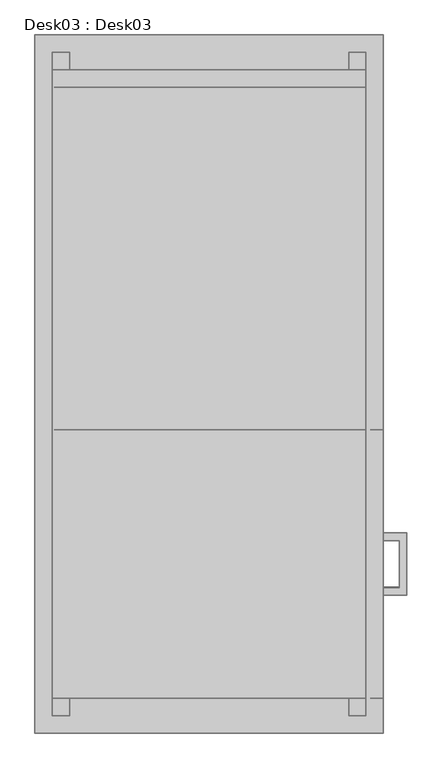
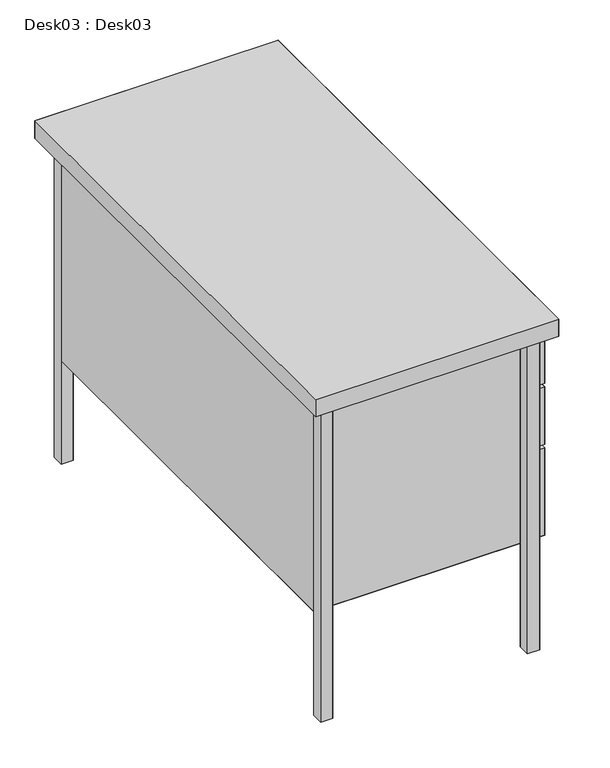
"""IFC4 building model written with IfcOpenShell, lengths in millimetres: furniture geometry, Desk03 : Desk03."""

from ifc_helpers import new_model, si_unit, origin, place, context, project, spatial, triangles, source, transform, mapped, element, save


def desk03_desk03_8cab2bc7(model_context):
    return source(origin(), model_context, "Body", "Tessellation", [
        triangles([(508.0101617, -735.8786293, 621.2738514), (508.0101617, -724.5096285, 632.6733736), (508.0101617, -724.5096285, 621.2738514), (508.0101617, -735.8786293, 632.6733736), (542.1477582, -724.5096285, 632.6733736), (530.7786847, -804.1843437, 621.2738514), (530.7786847, -735.8786293, 632.6733736), (530.7786847, -735.8786293, 621.2738514), (542.1477582, -815.5838659, 621.2738514), (542.1477582, -724.5096285, 621.2738514), (530.7786847, -804.1843437, 632.6733736), (508.0101617, -804.1843437, 621.2738514), (508.0101617, -815.5838659, 621.2738514), (508.0101617, -815.5838659, 632.6733736), (542.1477582, -815.5838659, 632.6733736), (508.0101617, -804.1843437, 632.6733736), (530.7786847, -735.8786293, 486.674182), (508.0101617, -735.8786293, 486.674182), (542.1477582, -724.5096285, 486.674182), (508.0101617, -724.5096285, 486.674182), (542.1477582, -724.5096285, 498.0431828), (508.0101617, -735.8786293, 498.0431828), (508.0101617, -724.5096285, 498.0431828), (530.7786847, -735.8786293, 498.0431828), (508.0101617, -804.1843437, 486.674182), (530.7786847, -804.1843437, 486.674182), (508.0101617, -815.5838659, 498.0431828), (542.1477582, -815.5838659, 486.674182), (508.0101617, -815.5838659, 486.674182), (530.7786847, -804.1843437, 498.0431828), (542.1477582, -815.5838659, 498.0431828), (508.0101617, -804.1843437, 498.0431828), (508.0101617, -724.5096285, 352.0439913), (508.0101617, -735.8786293, 352.0439913), (542.1477582, -724.5096285, 352.0439913), (508.0101617, -724.5096285, 363.4130284), (542.1477582, -724.5096285, 363.4130284), (508.0101617, -735.8786293, 363.4130284), (530.7786847, -735.8786293, 363.4130284), (530.7786847, -804.1843437, 352.0439913), (530.7786847, -735.8786293, 352.0439913), (542.1477582, -815.5838659, 352.0439913), (508.0101617, -804.1843437, 352.0439913), (508.0101617, -815.5838659, 352.0439913), (542.1477582, -815.5838659, 363.4130284), (508.0101617, -815.5838659, 363.4130284), (530.7786847, -804.1843437, 363.4130284), (508.0101617, -804.1843437, 363.4130284)], [[1, 8, 4], [7, 4, 8], [3, 10, 1], [8, 1, 10], [2, 5, 3], [10, 3, 5], [4, 7, 2], [5, 2, 7], [8, 6, 7], [11, 7, 6], [10, 9, 8], [6, 8, 9], [5, 15, 10], [9, 10, 15], [7, 11, 5], [15, 5, 11], [6, 12, 11], [16, 11, 12], [9, 13, 6], [12, 6, 13], [15, 14, 9], [13, 9, 14], [11, 16, 15], [14, 15, 16], [18, 17, 22], [24, 22, 17], [20, 19, 18], [17, 18, 19], [23, 21, 20], [19, 20, 21], [22, 24, 23], [21, 23, 24], [17, 26, 24], [30, 24, 26], [19, 28, 17], [26, 17, 28], [21, 31, 19], [28, 19, 31], [24, 30, 21], [31, 21, 30], [26, 25, 30], [32, 30, 25], [28, 29, 26], [25, 26, 29], [31, 27, 28], [29, 28, 27], [30, 32, 31], [27, 31, 32], [34, 41, 38], [39, 38, 41], [33, 35, 34], [41, 34, 35], [36, 37, 33], [35, 33, 37], [38, 39, 36], [37, 36, 39], [41, 40, 39], [47, 39, 40], [35, 42, 41], [40, 41, 42], [37, 45, 35], [42, 35, 45], [39, 47, 37], [45, 37, 47], [40, 43, 47], [48, 47, 43], [42, 44, 40], [43, 40, 44], [45, 46, 42], [44, 42, 46], [47, 48, 45], [46, 45, 48]], closed=False),
        triangles([(482.5898383, -574.7918412, 660.5016169), (482.5898383, -50.6882396, 660.5016169), (482.5898383, -50.6882396, 698.6016169), (482.5898383, -574.7613925, 698.6016169)], [[3, 1, 2], [1, 3, 4]], closed=False),
        triangles([(457.2914188, -50.6882396, 0.0), (457.2914188, -50.6882396, 698.6016169), (457.2914188, -25.3898406, 698.6016169), (457.2914188, -25.3898406, 0.0), (482.5898383, -25.3898406, 698.6016169), (482.5898383, -50.6882396, 698.6016169), (482.5898383, -50.6882396, 0.0), (482.5898383, -25.3898406, 0.0), (25.3898406, -50.6882396, 0.0), (25.3898406, -50.6882396, 698.6016169), (25.3898406, -25.3898406, 698.6016169), (25.3898406, -25.3898406, 0.0), (50.6882396, -25.3898406, 0.0), (50.6882396, -25.3898406, 698.6016169), (50.6882396, -50.6882396, 698.6016169), (50.6882396, -50.6882396, 0.0), (25.3898406, -990.6, 698.6016169), (25.3898406, -965.3016169, 698.6016169), (25.3898406, -965.3016169, 0.0), (25.3898406, -990.6, 0.0), (50.6882396, -965.3016169, 698.6016169), (50.6882396, -990.6, 698.6016169), (50.6882396, -990.6, 0.0), (50.6882396, -965.3016169, 0.0), (482.5898383, -965.3016169, 0.0), (482.5898383, -965.3016169, 698.6016169), (482.5898383, -990.6, 698.6016169), (482.5898383, -990.6, 0.0), (457.2914188, -990.6, 0.0), (457.2914188, -990.6, 698.6016169), (457.2914188, -965.3016169, 698.6016169), (457.2914188, -965.3016169, 0.0)], [[2, 1, 3], [4, 3, 1], [6, 8, 5], [8, 6, 7], [10, 9, 11], [12, 11, 9], [15, 13, 14], [13, 15, 16], [17, 20, 18], [19, 18, 20], [22, 24, 21], [24, 22, 23], [27, 25, 26], [25, 27, 28], [30, 29, 31], [32, 31, 29]], closed=False),
        triangles([(482.5898383, -50.6882396, 698.6016169), (457.2914188, -50.6882396, 698.6016169), (457.2914188, -50.6882396, 0.0), (482.5898383, -50.6882396, 0.0), (457.2914188, -25.3898406, 698.6016169), (482.5898383, -25.3898406, 698.6016169), (482.5898383, -25.3898406, 0.0), (457.2914188, -25.3898406, 0.0), (50.6882396, -50.6882396, 698.6016169), (25.3898406, -50.6882396, 698.6016169), (25.3898406, -50.6882396, 0.0), (50.6882396, -50.6882396, 0.0), (25.3898406, -25.3898406, 698.6016169), (50.6882396, -25.3898406, 698.6016169), (50.6882396, -25.3898406, 0.0), (25.3898406, -25.3898406, 0.0), (50.6882396, -990.6, 0.0), (50.6882396, -990.6, 698.6016169), (25.3898406, -990.6, 698.6016169), (25.3898406, -990.6, 0.0), (25.3898406, -965.3016169, 698.6016169), (50.6882396, -965.3016169, 698.6016169), (50.6882396, -965.3016169, 0.0), (25.3898406, -965.3016169, 0.0), (457.2914188, -965.3016169, 0.0), (457.2914188, -965.3016169, 698.6016169), (482.5898383, -965.3016169, 698.6016169), (482.5898383, -965.3016169, 0.0), (482.5898383, -990.6, 698.6016169), (457.2914188, -990.6, 698.6016169), (457.2914188, -990.6, 0.0), (482.5898383, -990.6, 0.0)], [[2, 4, 1], [4, 2, 3], [5, 8, 6], [7, 6, 8], [10, 12, 9], [12, 10, 11], [13, 16, 14], [15, 14, 16], [19, 17, 18], [17, 19, 20], [21, 24, 22], [23, 22, 24], [26, 25, 27], [28, 27, 25], [30, 32, 29], [32, 30, 31]], closed=False),
        triangles([(508.0101617, -574.7613925, 556.3514697), (488.9601617, -574.7613925, 556.3514697), (488.9601617, -965.3016169, 556.3514697), (508.0101617, -965.3016169, 556.3514697), (488.9601617, -965.3016169, 563.9714261), (488.9601617, -574.7918412, 563.9714261), (508.0101617, -574.7613925, 563.9714261), (508.0101617, -965.3016169, 563.9714261), (508.0101617, -574.7613925, 690.9815878), (488.9601617, -574.7613925, 690.9815878), (488.9601617, -965.3016169, 690.9815878), (508.0101617, -965.3016169, 690.9815878), (488.9601617, -965.3016169, 228.691437), (488.9601617, -574.7613925, 228.691437), (508.0101617, -574.7613925, 228.691437), (508.0101617, -965.3016169, 228.691437), (488.9601617, -574.7613925, 421.751764), (488.9601617, -965.3016169, 421.751764), (508.0101617, -965.3016169, 421.751764), (508.0101617, -574.7613925, 421.751764)], [[3, 1, 2], [1, 3, 4], [5, 8, 6], [7, 6, 8], [11, 9, 10], [9, 11, 12], [13, 16, 14], [15, 14, 16], [18, 20, 17], [20, 18, 19]], closed=False),
        triangles([(508.0101617, -574.7613925, 429.3412717), (508.0101617, -965.3016169, 429.3412717), (508.0101617, -965.3016169, 556.3514697), (508.0101617, -574.7613925, 556.3514697), (508.0101617, -574.7613925, 563.9714261), (508.0101617, -965.3016169, 563.9714261), (508.0101617, -965.3016169, 690.9815878), (508.0101617, -574.7613925, 690.9815878), (508.0101617, -574.7613925, 421.751764), (508.0101617, -574.7613925, 228.691437), (508.0101617, -965.3016169, 228.691437), (508.0101617, -965.3016169, 421.751764)], [[1, 4, 2], [3, 2, 4], [5, 8, 6], [7, 6, 8], [10, 9, 11], [12, 11, 9]], closed=False),
        triangles([(508.0101617, -965.3016169, 556.3514697), (488.9601617, -965.3016169, 556.3514697), (488.9601617, -965.3016169, 429.3412717), (508.0101617, -965.3016169, 429.3412717), (488.9601617, -574.7918412, 429.3412717), (488.9601617, -574.7613925, 556.3514697), (508.0101617, -574.7613925, 556.3514697), (508.0101617, -574.7613925, 429.3412717), (508.0101617, -965.3016169, 690.9815878), (488.9601617, -965.3016169, 690.9815878), (488.9601617, -965.3016169, 563.9714261), (508.0101617, -965.3016169, 563.9714261), (488.9601617, -574.7918412, 563.9714261), (488.9601617, -574.7613925, 690.9815878), (508.0101617, -574.7613925, 563.9714261), (508.0101617, -574.7613925, 690.9815878), (488.9601617, -965.3016169, 421.751764), (488.9601617, -965.3016169, 228.691437), (508.0101617, -965.3016169, 228.691437), (508.0101617, -965.3016169, 421.751764), (488.9601617, -574.7613925, 228.691437), (488.9601617, -574.7613925, 421.751764), (508.0101617, -574.7613925, 421.751764), (508.0101617, -574.7613925, 228.691437)], [[3, 1, 2], [1, 3, 4], [6, 5, 8], [7, 6, 8], [11, 9, 10], [9, 11, 12], [14, 13, 15], [16, 14, 15], [18, 20, 17], [20, 18, 19], [21, 24, 22], [23, 22, 24]], closed=False),
        triangles([(482.5898383, -965.3016169, 228.691437), (482.5898383, -574.7918412, 228.691437), (25.3898406, -574.7918412, 228.691437), (25.3898406, -965.3016169, 228.691437), (482.5898383, -574.7613925, 698.6016169), (482.5898383, -50.6882396, 698.6016169), (25.3898406, -50.6882396, 698.6016169), (25.3898406, -574.7918412, 698.6016169)], [[3, 1, 2], [1, 3, 4], [7, 5, 6], [5, 7, 8]], closed=False),
        triangles([(25.3898406, -965.3016169, 698.6016169), (25.3898406, -965.3016169, 228.691437), (25.3898406, -50.6882396, 228.691437), (25.3898406, -50.6882396, 698.6016169), (482.5898383, -965.3016169, 698.6016169), (482.5898383, -574.7918412, 698.6016169), (482.5898383, -574.7918412, 228.691437), (482.5898383, -965.3016169, 228.691437)], [[3, 1, 2], [1, 3, 4], [6, 5, 7], [8, 7, 5]], closed=False),
        triangles([(27.9298382, -574.7918412, 698.6016169), (27.9298382, -574.7918412, 228.691437), (482.5898383, -574.7613925, 228.691437), (482.5898383, -574.7613925, 698.6016169), (482.5898383, -965.3016169, 228.691437), (25.3898406, -965.3016169, 228.691437), (25.3898406, -965.3016169, 698.6016169), (482.5898383, -965.3016169, 698.6016169), (482.5898383, -50.6882396, 698.6016169), (25.3898406, -50.6882396, 698.6016169), (25.3898406, -50.6882396, 228.691437), (482.5898383, -50.6882396, 228.691437), (27.9298382, -75.9866409, 698.6016169), (482.5898383, -75.9866409, 698.6016169), (482.5898383, -75.9866409, 228.691437), (27.9298382, -75.9866409, 228.691437)], [[3, 1, 2], [1, 3, 4], [5, 8, 6], [7, 6, 8], [10, 12, 9], [12, 10, 11], [13, 16, 14], [15, 14, 16]], closed=False),
        triangles([(0.0, 0.0, 736.610198), (508.0101617, 0.0, 736.610198), (508.0101617, -1015.989802, 736.610198), (0.0, -1015.989802, 736.610198)], [[2, 1, 3], [4, 3, 1]], closed=False),
        triangles([(508.0101617, -1015.989802, 736.610198), (508.0101617, 0.0, 736.610198), (508.0101617, 0.0, 698.510198), (508.0101617, -1015.989802, 698.510198), (0.0, -1015.989802, 736.610198), (0.0, -1015.989802, 698.510198), (0.0, 0.0, 698.510198), (0.0, 0.0, 736.610198)], [[2, 1, 3], [4, 3, 1], [6, 8, 5], [8, 6, 7]], closed=False),
        triangles([(0.0, -1015.989802, 736.610198), (508.0101617, -1015.989802, 736.610198), (508.0101617, -1015.989802, 698.510198), (0.0, -1015.989802, 698.510198), (0.0, 0.0, 736.610198), (0.0, 0.0, 698.510198), (508.0101617, 0.0, 698.510198), (508.0101617, 0.0, 736.610198)], [[2, 1, 3], [4, 3, 1], [6, 8, 5], [8, 6, 7]], closed=False),
    ])


if __name__ == "__main__":
    model = new_model("IFC4")
    model_context = context("Model", 3, world=origin())
    ifc_project = project(units=[si_unit("LENGTHUNIT", "METRE", prefix="MILLI")], contexts=[model_context])
    site = spatial("IfcSite", under=ifc_project)
    building = spatial("IfcBuilding", under=site)
    placement = place(None, origin())
    desk03_desk03_shape = desk03_desk03_8cab2bc7(model_context)
    element("IfcFurniture", 1, ObjectType="Desk03 : Desk03", at=placement, inside=building, context=model_context, shape_type="MappedRepresentation", body=[
        mapped(desk03_desk03_shape, transform((0.0, 0.0, 0.0), x_axis=(1.0, 0.0, 0.0), y_axis=(0.0, 1.0, 0.0), z_axis=(0.0, 0.0, 1.0))),
    ])
    save(model, "model.ifc")
